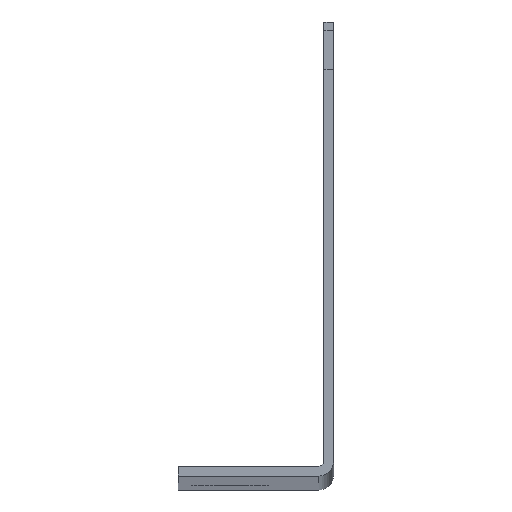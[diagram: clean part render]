
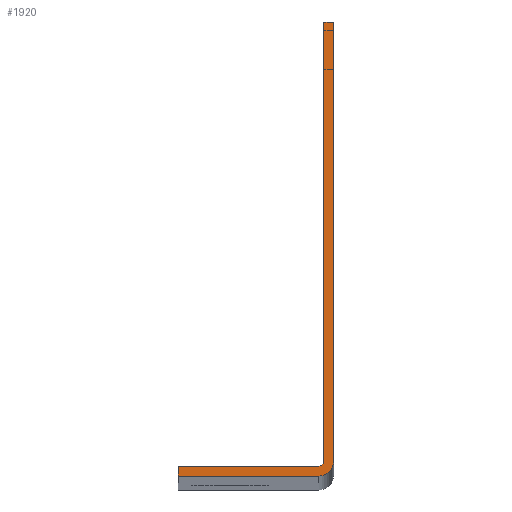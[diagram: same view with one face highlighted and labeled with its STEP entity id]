
A CAD part, top view. The second image highlights one B-rep face of the part: STEP entity #1920.
In plain terms, the highlighted planar face has unit normal (0, 0, 1).
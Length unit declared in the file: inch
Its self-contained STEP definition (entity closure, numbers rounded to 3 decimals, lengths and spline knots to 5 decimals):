
#1920 = ADVANCED_FACE( '', ( #4202 ), #4203, .T. );
#4202 = FACE_OUTER_BOUND( '', #6525, .T. );
#4203 = PLANE( '', #6526 );
#6525 = EDGE_LOOP( '', ( #12915, #12916, #12917, #12918, #12919, #12920, #12921, #12922 ) );
#6526 = AXIS2_PLACEMENT_3D( '', #12923, #12924, #12925 );
#12915 = ORIENTED_EDGE( '', *, *, #15878, .F. );
#12916 = ORIENTED_EDGE( '', *, *, #14733, .F. );
#12917 = ORIENTED_EDGE( '', *, *, #15659, .F. );
#12918 = ORIENTED_EDGE( '', *, *, #14197, .T. );
#12919 = ORIENTED_EDGE( '', *, *, #13967, .T. );
#12920 = ORIENTED_EDGE( '', *, *, #15348, .T. );
#12921 = ORIENTED_EDGE( '', *, *, #14708, .T. );
#12922 = ORIENTED_EDGE( '', *, *, #14821, .T. );
#12923 = CARTESIAN_POINT( '', ( 0.75, 0.095, 38.515 ) );
#12924 = DIRECTION( '', ( 0., 0., 1. ) );
#12925 = DIRECTION( '', ( 1., 0., 0. ) );
#13967 = EDGE_CURVE( '', #17245, #17242, #17246, .T. );
#14197 = EDGE_CURVE( '', #17612, #17245, #17613, .T. );
#14708 = EDGE_CURVE( '', #18353, #18357, #18359, .T. );
#14733 = EDGE_CURVE( '', #18394, #18390, #18396, .T. );
#14821 = EDGE_CURVE( '', #18357, #18520, #18523, .T. );
#15348 = EDGE_CURVE( '', #17242, #18353, #19232, .F. );
#15659 = EDGE_CURVE( '', #17612, #18394, #19638, .T. );
#15878 = EDGE_CURVE( '', #18390, #18520, #19864, .T. );
#17242 = VERTEX_POINT( '', #21824 );
#17245 = VERTEX_POINT( '', #21828 );
#17246 = LINE( '', #21829, #21830 );
#17612 = VERTEX_POINT( '', #22348 );
#17613 = LINE( '', #22349, #22350 );
#18353 = VERTEX_POINT( '', #23437 );
#18357 = VERTEX_POINT( '', #23443 );
#18359 = LINE( '', #23446, #23447 );
#18390 = VERTEX_POINT( '', #23492 );
#18394 = VERTEX_POINT( '', #23497 );
#18396 = CIRCLE( '', #23500, 0.143 );
#18520 = VERTEX_POINT( '', #23684 );
#18523 = LINE( '', #23688, #23689 );
#19232 = CIRCLE( '', #24739, 0.048 );
#19638 = LINE( '', #25399, #25400 );
#19864 = LINE( '', #25693, #25694 );
#21824 = CARTESIAN_POINT( '', ( 0.655, 0.143, 38.515 ) );
#21828 = CARTESIAN_POINT( '', ( 0.655, 4.391, 38.515 ) );
#21829 = CARTESIAN_POINT( '', ( 0.655, 0.08549, 38.515 ) );
#21830 = VECTOR( '', #26506, 39.37008 );
#22348 = CARTESIAN_POINT( '', ( 0.75, 4.391, 38.515 ) );
#22349 = CARTESIAN_POINT( '', ( 0.75, 4.391, 38.515 ) );
#22350 = VECTOR( '', #26752, 39.37008 );
#23437 = CARTESIAN_POINT( '', ( 0.607, 0.095, 38.515 ) );
#23443 = CARTESIAN_POINT( '', ( -0.75, 0.095, 38.515 ) );
#23446 = CARTESIAN_POINT( '', ( 0.75, 0.095, 38.515 ) );
#23447 = VECTOR( '', #27172, 39.37008 );
#23492 = CARTESIAN_POINT( '', ( 0.607, 0., 38.515 ) );
#23497 = CARTESIAN_POINT( '', ( 0.75, 0.143, 38.515 ) );
#23500 = AXIS2_PLACEMENT_3D( '', #27192, #27193, #27194 );
#23684 = CARTESIAN_POINT( '', ( -0.75, 0., 38.515 ) );
#23688 = CARTESIAN_POINT( '', ( -0.75, 0.095, 38.515 ) );
#23689 = VECTOR( '', #27259, 39.37008 );
#24739 = AXIS2_PLACEMENT_3D( '', #27640, #27641, #27642 );
#25399 = CARTESIAN_POINT( '', ( 0.75, 0.08549, 38.515 ) );
#25400 = VECTOR( '', #27942, 39.37008 );
#25693 = CARTESIAN_POINT( '', ( 0.75, 0., 38.515 ) );
#25694 = VECTOR( '', #28055, 39.37008 );
#26506 = DIRECTION( '', ( 0., -1., 0. ) );
#26752 = DIRECTION( '', ( -1., 0., 0. ) );
#27172 = DIRECTION( '', ( -1., 0., 0. ) );
#27192 = CARTESIAN_POINT( '', ( 0.607, 0.143, 38.515 ) );
#27193 = DIRECTION( '', ( 0., 0., -1. ) );
#27194 = DIRECTION( '', ( 0., 1., 0. ) );
#27259 = DIRECTION( '', ( 0., -1., 0. ) );
#27640 = CARTESIAN_POINT( '', ( 0.607, 0.143, 38.515 ) );
#27641 = DIRECTION( '', ( 0., 0., 1. ) );
#27642 = DIRECTION( '', ( 1., 0., 0. ) );
#27942 = DIRECTION( '', ( 0., -1., 0. ) );
#28055 = DIRECTION( '', ( -1., 0., 0. ) );
